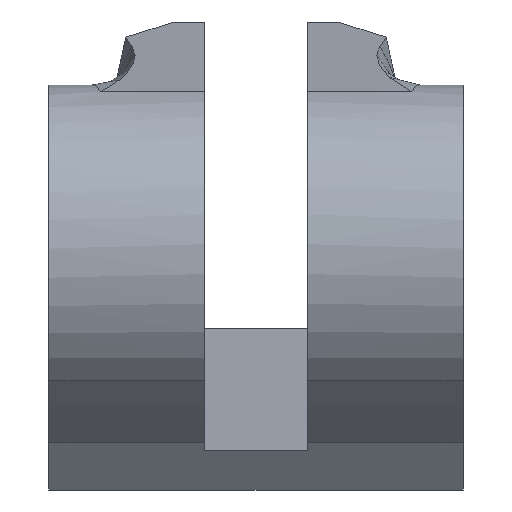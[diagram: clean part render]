
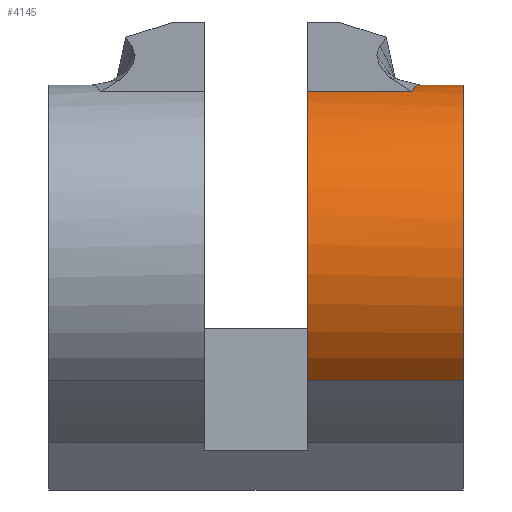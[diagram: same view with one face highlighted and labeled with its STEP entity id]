
A CAD part, front view. The second image highlights one B-rep face of the part: STEP entity #4145.
In plain terms, the highlighted cylindrical face has radius 6.679 mm (diameter 13.357 mm), a partial arc.
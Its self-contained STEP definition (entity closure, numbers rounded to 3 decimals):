
#85 = CARTESIAN_POINT ( 'NONE',  ( 6.37, -99.7, 17.179 ) ) ;
#107 = ORIENTED_EDGE ( 'NONE', *, *, #5413, .T. ) ;
#233 = VERTEX_POINT ( 'NONE', #1973 ) ;
#402 = B_SPLINE_CURVE_WITH_KNOTS ( 'NONE', 3,
 ( #85, #1844, #3584, #1758, #5285, #2713 ),
 .UNSPECIFIED., .F., .F.,
 ( 4, 2, 4 ),
 ( 0.005, 0.006, 0.007 ),
 .UNSPECIFIED. ) ;
#489 = EDGE_CURVE ( 'NONE', #2402, #3041, #1794, .T. ) ;
#494 = DIRECTION ( 'NONE',  ( 0., 0., 1. ) ) ;
#779 = ORIENTED_EDGE ( 'NONE', *, *, #3006, .T. ) ;
#841 = EDGE_CURVE ( 'NONE', #233, #2084, #2162, .T. ) ;
#1009 = CARTESIAN_POINT ( 'NONE',  ( 8., -99.7, 10.5 ) ) ;
#1069 = DIRECTION ( 'NONE',  ( 1., 0., 0. ) ) ;
#1161 = DIRECTION ( 'NONE',  ( -1., 0., 0. ) ) ;
#1262 = LINE ( 'NONE', #4747, #2262 ) ;
#1308 = EDGE_LOOP ( 'NONE', ( #3767, #107, #779, #1543, #4768, #3083 ) ) ;
#1543 = ORIENTED_EDGE ( 'NONE', *, *, #2554, .T. ) ;
#1667 = CARTESIAN_POINT ( 'NONE',  ( 8., -99.7, 17.179 ) ) ;
#1758 = CARTESIAN_POINT ( 'NONE',  ( 6.098, -100.911, 17.075 ) ) ;
#1794 = CIRCLE ( 'NONE', #2906, 6.679 ) ;
#1844 = CARTESIAN_POINT ( 'NONE',  ( 6.286, -100.002, 17.179 ) ) ;
#1973 = CARTESIAN_POINT ( 'NONE',  ( 8., -99.7, 17.179 ) ) ;
#2084 = VERTEX_POINT ( 'NONE', #4442 ) ;
#2162 = CIRCLE ( 'NONE', #3370, 6.679 ) ;
#2257 = FACE_OUTER_BOUND ( 'NONE', #1308, .T. ) ;
#2262 = VECTOR ( 'NONE', #5240, 1000. ) ;
#2356 = VECTOR ( 'NONE', #1161, 1000. ) ;
#2402 = VERTEX_POINT ( 'NONE', #4927 ) ;
#2554 = EDGE_CURVE ( 'NONE', #3216, #2402, #4585, .T. ) ;
#2713 = CARTESIAN_POINT ( 'NONE',  ( 6.02, -101.513, 16.928 ) ) ;
#2720 = DIRECTION ( 'NONE',  ( -1., 0., 0. ) ) ;
#2883 = CARTESIAN_POINT ( 'NONE',  ( 8., -101.513, 16.928 ) ) ;
#2906 = AXIS2_PLACEMENT_3D ( 'NONE', #3566, #5330, #4031 ) ;
#3006 = EDGE_CURVE ( 'NONE', #5389, #3216, #402, .T. ) ;
#3041 = VERTEX_POINT ( 'NONE', #3151 ) ;
#3083 = ORIENTED_EDGE ( 'NONE', *, *, #4844, .F. ) ;
#3151 = CARTESIAN_POINT ( 'NONE',  ( 2., -104.411, 5.766 ) ) ;
#3216 = VERTEX_POINT ( 'NONE', #4744 ) ;
#3370 = AXIS2_PLACEMENT_3D ( 'NONE', #1009, #1069, #5415 ) ;
#3458 = CARTESIAN_POINT ( 'NONE',  ( 6.37, -99.7, 17.179 ) ) ;
#3566 = CARTESIAN_POINT ( 'NONE',  ( 2., -99.7, 10.5 ) ) ;
#3584 = CARTESIAN_POINT ( 'NONE',  ( 6.215, -100.306, 17.158 ) ) ;
#3767 = ORIENTED_EDGE ( 'NONE', *, *, #841, .F. ) ;
#4031 = DIRECTION ( 'NONE',  ( 0., 0., -1. ) ) ;
#4145 = ADVANCED_FACE ( 'NONE', ( #2257 ), #4920, .T. ) ;
#4384 = AXIS2_PLACEMENT_3D ( 'NONE', #5353, #2720, #494 ) ;
#4442 = CARTESIAN_POINT ( 'NONE',  ( 8., -104.411, 5.766 ) ) ;
#4585 = LINE ( 'NONE', #2883, #2356 ) ;
#4744 = CARTESIAN_POINT ( 'NONE',  ( 6.02, -101.513, 16.928 ) ) ;
#4747 = CARTESIAN_POINT ( 'NONE',  ( 8., -104.411, 5.766 ) ) ;
#4768 = ORIENTED_EDGE ( 'NONE', *, *, #489, .T. ) ;
#4844 = EDGE_CURVE ( 'NONE', #2084, #3041, #1262, .T. ) ;
#4920 = CYLINDRICAL_SURFACE ( 'NONE', #4384, 6.679 ) ;
#4927 = CARTESIAN_POINT ( 'NONE',  ( 2., -101.513, 16.928 ) ) ;
#5104 = LINE ( 'NONE', #1667, #5394 ) ;
#5191 = DIRECTION ( 'NONE',  ( -1., 0., 0. ) ) ;
#5240 = DIRECTION ( 'NONE',  ( -1., 0., 0. ) ) ;
#5285 = CARTESIAN_POINT ( 'NONE',  ( 6.053, -101.212, 17.013 ) ) ;
#5330 = DIRECTION ( 'NONE',  ( 1., 0., 0. ) ) ;
#5353 = CARTESIAN_POINT ( 'NONE',  ( 8., -99.7, 10.5 ) ) ;
#5389 = VERTEX_POINT ( 'NONE', #3458 ) ;
#5394 = VECTOR ( 'NONE', #5191, 1000. ) ;
#5413 = EDGE_CURVE ( 'NONE', #233, #5389, #5104, .T. ) ;
#5415 = DIRECTION ( 'NONE',  ( 0., 0., -1. ) ) ;
